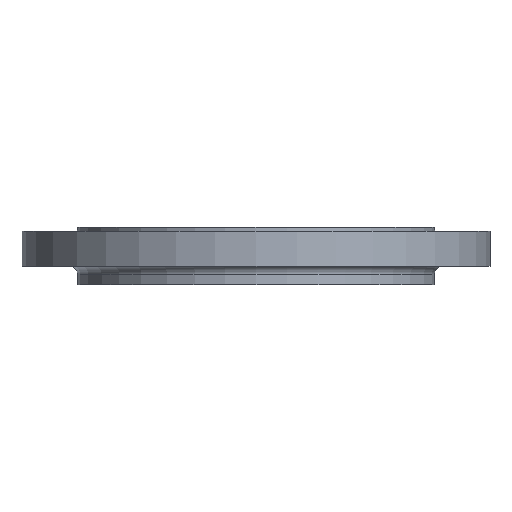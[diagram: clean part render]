
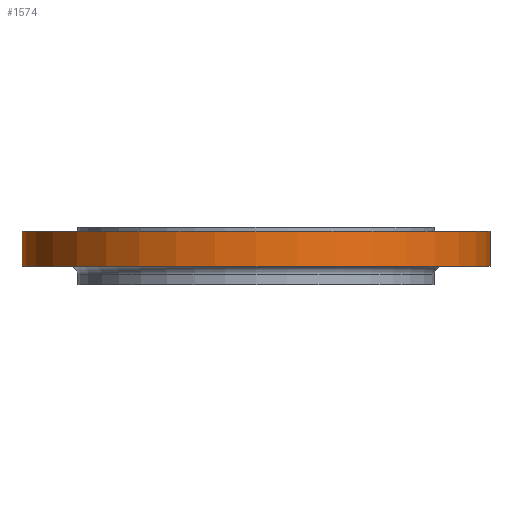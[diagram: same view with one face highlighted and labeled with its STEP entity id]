
A CAD part, front view. The second image highlights one B-rep face of the part: STEP entity #1574.
In plain terms, the highlighted cylindrical face has radius 342.5 mm (diameter 685 mm), a partial arc.
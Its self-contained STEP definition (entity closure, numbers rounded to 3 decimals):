
#35 = LINE ( 'NONE', #911, #1872 ) ;
#119 = AXIS2_PLACEMENT_3D ( 'NONE', #1447, #1882, #595 ) ;
#217 = CARTESIAN_POINT ( 'NONE',  ( 342.5, 0., -57. ) ) ;
#225 = CARTESIAN_POINT ( 'NONE',  ( -342.5, 0., -150. ) ) ;
#341 = VERTEX_POINT ( 'NONE', #217 ) ;
#392 = DIRECTION ( 'NONE',  ( 1., 0., 0. ) ) ;
#500 = CIRCLE ( 'NONE', #884, 342.5 ) ;
#533 = CARTESIAN_POINT ( 'NONE',  ( 342.5, 0., -5.5 ) ) ;
#595 = DIRECTION ( 'NONE',  ( 1., 0., 0. ) ) ;
#631 = CYLINDRICAL_SURFACE ( 'NONE', #1542, 342.5 ) ;
#675 = ORIENTED_EDGE ( 'NONE', *, *, #1538, .T. ) ;
#677 = ORIENTED_EDGE ( 'NONE', *, *, #1658, .T. ) ;
#680 = ORIENTED_EDGE ( 'NONE', *, *, #1528, .T. ) ;
#682 = ORIENTED_EDGE ( 'NONE', *, *, #1632, .F. ) ;
#725 = VERTEX_POINT ( 'NONE', #728 ) ;
#728 = CARTESIAN_POINT ( 'NONE',  ( -342.5, 0., -57. ) ) ;
#884 = AXIS2_PLACEMENT_3D ( 'NONE', #971, #1619, #1960 ) ;
#911 = CARTESIAN_POINT ( 'NONE',  ( 342.5, 0., -150. ) ) ;
#969 = EDGE_LOOP ( 'NONE', ( #682, #680, #677, #675 ) ) ;
#971 = CARTESIAN_POINT ( 'NONE',  ( 0., 0., -5.5 ) ) ;
#1037 = DIRECTION ( 'NONE',  ( 0., 0., 1. ) ) ;
#1074 = VERTEX_POINT ( 'NONE', #1936 ) ;
#1079 = VERTEX_POINT ( 'NONE', #533 ) ;
#1097 = VECTOR ( 'NONE', #1037, 1000. ) ;
#1216 = CIRCLE ( 'NONE', #119, 342.5 ) ;
#1325 = CARTESIAN_POINT ( 'NONE',  ( 0., 0., -150. ) ) ;
#1447 = CARTESIAN_POINT ( 'NONE',  ( 0., 0., -57. ) ) ;
#1523 = DIRECTION ( 'NONE',  ( 0., 0., 1. ) ) ;
#1528 = EDGE_CURVE ( 'NONE', #725, #341, #1216, .T. ) ;
#1538 = EDGE_CURVE ( 'NONE', #1079, #1074, #500, .T. ) ;
#1542 = AXIS2_PLACEMENT_3D ( 'NONE', #1325, #1819, #392 ) ;
#1574 = ADVANCED_FACE ( 'NONE', ( #1895 ), #631, .T. ) ;
#1619 = DIRECTION ( 'NONE',  ( 0., 0., -1. ) ) ;
#1632 = EDGE_CURVE ( 'NONE', #725, #1074, #1756, .T. ) ;
#1658 = EDGE_CURVE ( 'NONE', #341, #1079, #35, .T. ) ;
#1756 = LINE ( 'NONE', #225, #1097 ) ;
#1819 = DIRECTION ( 'NONE',  ( 0., 0., 1. ) ) ;
#1872 = VECTOR ( 'NONE', #1523, 1000. ) ;
#1882 = DIRECTION ( 'NONE',  ( 0., 0., 1. ) ) ;
#1895 = FACE_OUTER_BOUND ( 'NONE', #969, .T. ) ;
#1936 = CARTESIAN_POINT ( 'NONE',  ( -342.5, 0., -5.5 ) ) ;
#1960 = DIRECTION ( 'NONE',  ( -1., 0., 0. ) ) ;
